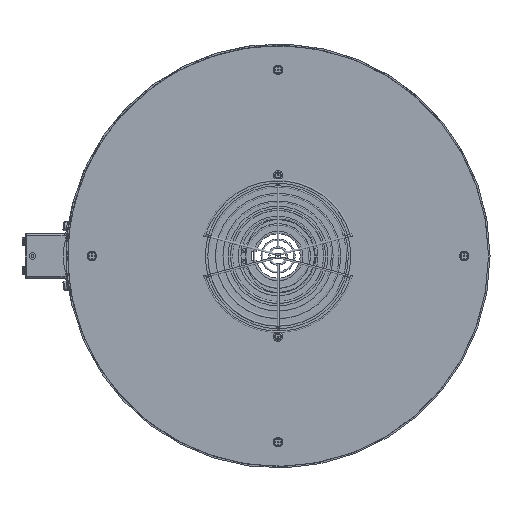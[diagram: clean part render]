
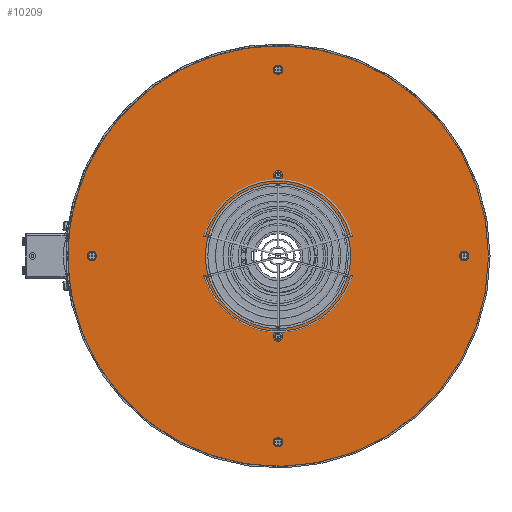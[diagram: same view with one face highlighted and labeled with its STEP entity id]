
A CAD part, left-side view. The second image highlights one B-rep face of the part: STEP entity #10209.
In plain terms, the highlighted planar face has unit normal (-1, 0, 0).
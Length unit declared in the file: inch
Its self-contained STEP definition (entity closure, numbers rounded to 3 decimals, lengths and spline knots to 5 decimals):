
#9856=CARTESIAN_POINT('',(-6.14173,-0.125,7.35768));
#9857=VERTEX_POINT('',#9856);
#9858=CARTESIAN_POINT('',(-6.14173,0.,7.35768));
#9859=DIRECTION('',(1.0,0.0,0.0));
#9860=DIRECTION('',(0.0,1.0,0.0));
#9861=AXIS2_PLACEMENT_3D('',#9858,#9859,#9860);
#9862=CIRCLE('',#9861,0.125);
#9863=EDGE_CURVE('',#9857,#9857,#9862,.T.);
#9905=CARTESIAN_POINT('',(-6.14173,-7.35768,-0.125));
#9906=VERTEX_POINT('',#9905);
#9907=CARTESIAN_POINT('',(-6.14173,-7.35768,0.));
#9908=DIRECTION('',(1.0,0.0,0.0));
#9909=DIRECTION('',(0.0,0.0,1.0));
#9910=AXIS2_PLACEMENT_3D('',#9907,#9908,#9909);
#9911=CIRCLE('',#9910,0.125);
#9912=EDGE_CURVE('',#9906,#9906,#9911,.T.);
#9954=CARTESIAN_POINT('',(-6.14173,0.125,-7.35768));
#9955=VERTEX_POINT('',#9954);
#9956=CARTESIAN_POINT('',(-6.14173,0.,-7.35768));
#9957=DIRECTION('',(1.0,0.0,0.0));
#9958=DIRECTION('',(0.0,-1.0,0.0));
#9959=AXIS2_PLACEMENT_3D('',#9956,#9957,#9958);
#9960=CIRCLE('',#9959,0.125);
#9961=EDGE_CURVE('',#9955,#9955,#9960,.T.);
#10003=CARTESIAN_POINT('',(-6.14173,7.35768,0.125));
#10004=VERTEX_POINT('',#10003);
#10005=CARTESIAN_POINT('',(-6.14173,7.35768,0.0));
#10006=DIRECTION('',(1.0,0.0,0.0));
#10007=DIRECTION('',(0.0,0.0,-1.0));
#10008=AXIS2_PLACEMENT_3D('',#10005,#10006,#10007);
#10009=CIRCLE('',#10008,0.125);
#10010=EDGE_CURVE('',#10004,#10004,#10009,.T.);
#10063=CARTESIAN_POINT('',(-6.14173,0.,-3.275));
#10064=VERTEX_POINT('',#10063);
#10065=CARTESIAN_POINT('',(-6.14173,0.,-3.18898));
#10066=DIRECTION('',(1.0,0.0,0.0));
#10067=DIRECTION('',(0.0,0.0,-1.0));
#10068=AXIS2_PLACEMENT_3D('',#10065,#10066,#10067);
#10069=CIRCLE('',#10068,0.08602);
#10070=EDGE_CURVE('',#10064,#10064,#10069,.T.);
#10112=CARTESIAN_POINT('',(-6.14173,0.0,3.275));
#10113=VERTEX_POINT('',#10112);
#10114=CARTESIAN_POINT('',(-6.14173,0.0,3.18898));
#10115=DIRECTION('',(1.0,0.0,0.0));
#10116=DIRECTION('',(0.0,0.0,1.0));
#10117=AXIS2_PLACEMENT_3D('',#10114,#10115,#10116);
#10118=CIRCLE('',#10117,0.08602);
#10119=EDGE_CURVE('',#10113,#10113,#10118,.T.);
#10140=CARTESIAN_POINT('',(-6.14173,0.,2.87402));
#10141=VERTEX_POINT('',#10140);
#10142=CARTESIAN_POINT('',(-6.14173,0.0,0.0));
#10143=DIRECTION('',(1.0,0.0,0.0));
#10144=DIRECTION('',(0.0,0.0,-1.0));
#10145=AXIS2_PLACEMENT_3D('',#10142,#10143,#10144);
#10146=CIRCLE('',#10145,2.87402);
#10147=EDGE_CURVE('',#10141,#10141,#10146,.T.);
#10168=CARTESIAN_POINT('',(-6.14173,0.,8.31496));
#10169=VERTEX_POINT('',#10168);
#10170=CARTESIAN_POINT('',(-6.14173,0.0,0.0));
#10171=DIRECTION('',(1.0,0.0,0.0));
#10172=DIRECTION('',(0.0,0.0,-1.0));
#10173=AXIS2_PLACEMENT_3D('',#10170,#10171,#10172);
#10174=CIRCLE('',#10173,8.31496);
#10175=EDGE_CURVE('',#10169,#10169,#10174,.T.);
#10180=CARTESIAN_POINT('',(-6.14173,0.0,0.0));
#10181=DIRECTION('',(1.0,0.0,0.0));
#10182=DIRECTION('',(0.0,0.0,-1.0));
#10183=AXIS2_PLACEMENT_3D('',#10180,#10181,#10182);
#10184=PLANE('',#10183);
#10185=ORIENTED_EDGE('',*,*,#10175,.F.);
#10186=EDGE_LOOP('',(#10185));
#10187=FACE_OUTER_BOUND('',#10186,.T.);
#10188=ORIENTED_EDGE('',*,*,#9863,.T.);
#10189=EDGE_LOOP('',(#10188));
#10190=FACE_BOUND('',#10189,.T.);
#10191=ORIENTED_EDGE('',*,*,#9912,.T.);
#10192=EDGE_LOOP('',(#10191));
#10193=FACE_BOUND('',#10192,.T.);
#10194=ORIENTED_EDGE('',*,*,#9961,.T.);
#10195=EDGE_LOOP('',(#10194));
#10196=FACE_BOUND('',#10195,.T.);
#10197=ORIENTED_EDGE('',*,*,#10010,.T.);
#10198=EDGE_LOOP('',(#10197));
#10199=FACE_BOUND('',#10198,.T.);
#10200=ORIENTED_EDGE('',*,*,#10070,.T.);
#10201=EDGE_LOOP('',(#10200));
#10202=FACE_BOUND('',#10201,.T.);
#10203=ORIENTED_EDGE('',*,*,#10119,.T.);
#10204=EDGE_LOOP('',(#10203));
#10205=FACE_BOUND('',#10204,.T.);
#10206=ORIENTED_EDGE('',*,*,#10147,.T.);
#10207=EDGE_LOOP('',(#10206));
#10208=FACE_BOUND('',#10207,.T.);
#10209=ADVANCED_FACE('',(#10187,#10190,#10193,#10196,#10199,#10202,#10205,#10208),#10184,.F.);
